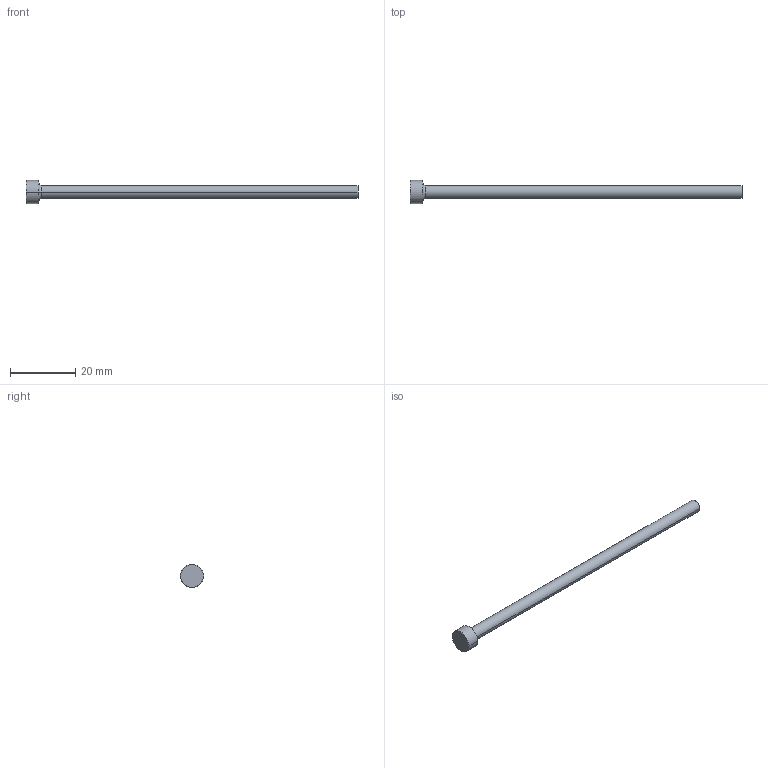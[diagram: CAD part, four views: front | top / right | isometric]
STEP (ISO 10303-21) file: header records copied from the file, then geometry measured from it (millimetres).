
FILE_DESCRIPTION (( 'STEP AP214' ), '1' );
FILE_NAME ('P11-4.STEP', '2020-03-11T17:42:56', ( '' ), ( '' ), 'SwSTEP 2.0', 'SolidWorks 2018', '' );
FILE_SCHEMA (( 'AUTOMOTIVE_DESIGN' ));
Length unit declared in the file: inch
Products named in the file (1): P11-4
Bounding box: 101.6 x 7.14 x 7.14 mm (x, y, z)
Volume: 1363.7 mm3; surface area: 1377.7 mm2
Topology: 1 solids, 1 shells, 13 faces, 24 edges, 14 vertices
Faces by surface type: cone 4, cylinder 4, plane 3, torus 2
Entity records: 366 total; most frequent: DIRECTION 68, CARTESIAN_POINT 52, ORIENTED_EDGE 48, AXIS2_PLACEMENT_3D 30, EDGE_CURVE 24, CIRCLE 16, EDGE_LOOP 14, VERTEX_POINT 14
